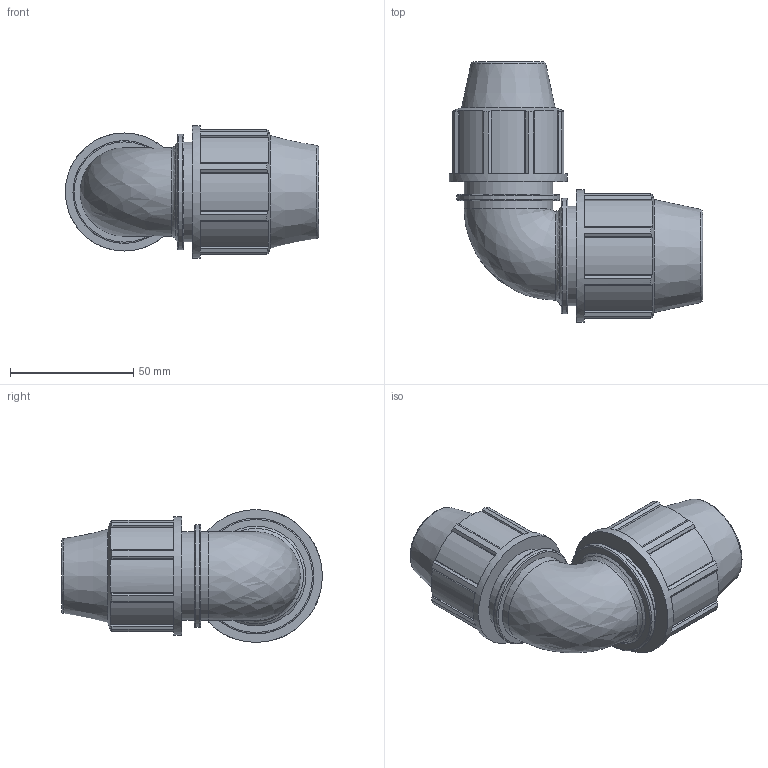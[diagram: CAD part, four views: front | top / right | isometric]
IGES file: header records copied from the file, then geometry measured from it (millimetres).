
Global section: file name: 075100025020__0751060250200A.ipt; native system: Autodesk Inventor 2015; preprocessor: unknown; author: KIM; date: 20170606.133202; units: millimetre
Bounding box: 103 x 106 x 54 mm (x, y, z)
Volume: 154405.3 mm3; surface area: 37012.7 mm2
Topology: 1 solids, 1 shells, 135 faces, 379 edges, 255 vertices
Faces by surface type: plane 91, cylinder 23, revolution 16, cone 4, bspline 1
Full cylindrical faces by diameter (mm): 36 x2, 40.5 x1, 41.76 x1, 46.98 x1, 48 x1, 54 x1
